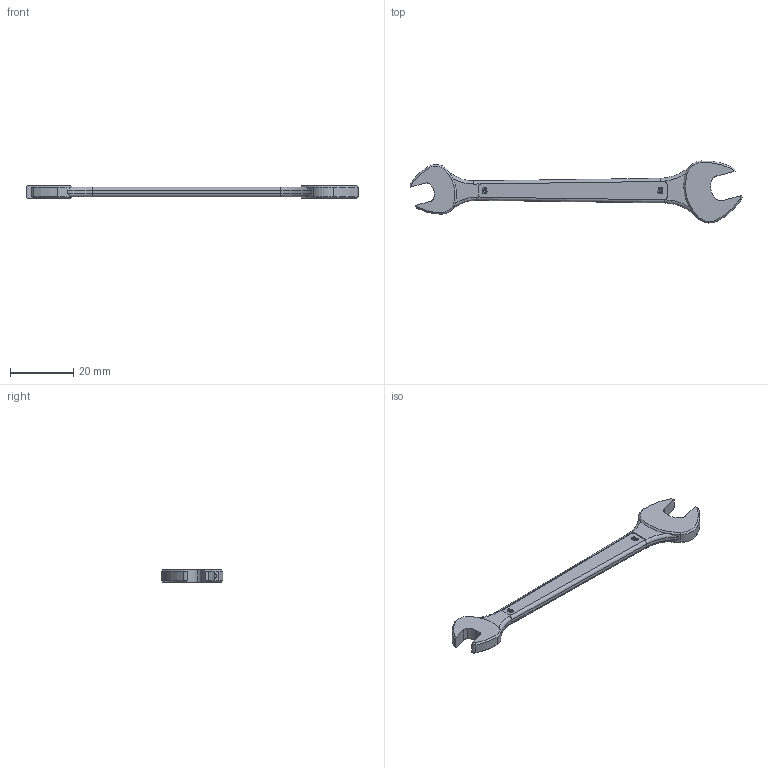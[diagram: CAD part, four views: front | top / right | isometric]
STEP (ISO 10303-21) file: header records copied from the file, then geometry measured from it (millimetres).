
FILE_DESCRIPTION(/* description */ (''),/* implementation_level */ '2;1');
FILE_NAME(/* name */ 'C:\Users\D\Documents\Inventor\各種小物\JIS\02-分解工具\両口スパナ\投稿用\6-8※.stp',/* time_stamp */ '2022-04-20T16:31:21+09:00',/* author */ ('D'),/* organization */ (''),/* preprocessor_version */ 'ST-DEVELOPER v18',/* originating_system */ 'Autodesk Inventor 2020',/* authorisation */ '');
FILE_SCHEMA (('AUTOMOTIVE_DESIGN { 1 0 10303 214 3 1 1 }','TECHNICAL_DATA_PACKAGING'));
Length unit declared in the file: millimetre
Products named in the file (1): 17-19
Bounding box: 105.38 x 19.68 x 4 mm (x, y, z)
Volume: 2833.8 mm3; surface area: 2550.8 mm2
Topology: 1 solids, 1 shells, 141 faces, 358 edges, 224 vertices
Faces by surface type: bspline 42, cylinder 36, cone 28, plane 27, torus 8
Entity records: 4680 total; most frequent: CARTESIAN_POINT 1473, ORIENTED_EDGE 716, DIRECTION 570, EDGE_CURVE 358, VERTEX_POINT 224, AXIS2_PLACEMENT_3D 208, LINE 154, VECTOR 154
